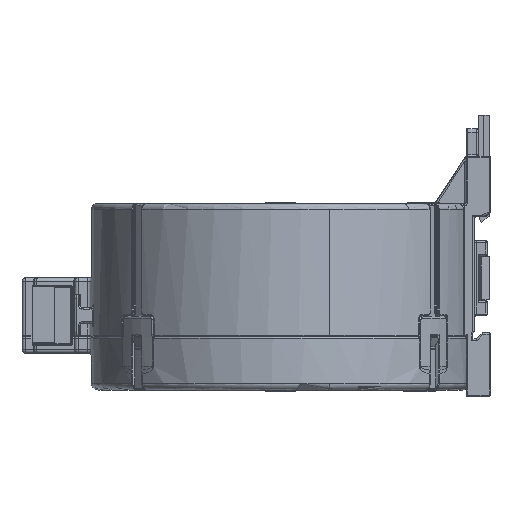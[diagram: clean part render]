
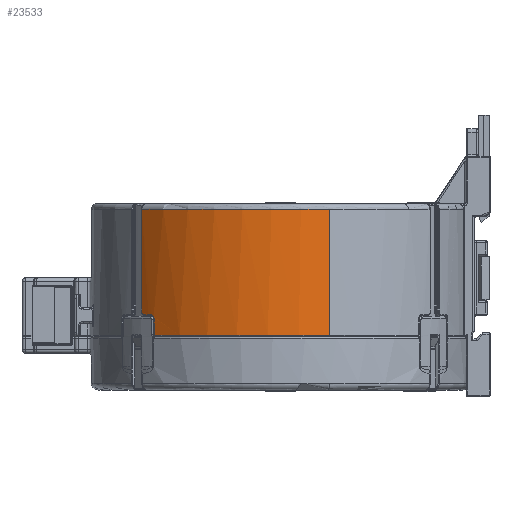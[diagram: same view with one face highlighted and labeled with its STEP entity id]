
A CAD part, left-side view. The second image highlights one B-rep face of the part: STEP entity #23533.
In plain terms, the highlighted cylindrical face has radius 55.4 mm (diameter 110.8 mm), a partial arc.
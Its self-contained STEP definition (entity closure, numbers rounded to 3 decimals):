
#928 = CARTESIAN_POINT ( 'NONE',  ( 0., 0., -32.4 ) ) ;
#1231 = CARTESIAN_POINT ( 'NONE',  ( -37.668, 40.624, 0. ) ) ;
#1321 = LINE ( 'NONE', #137742, #167018 ) ;
#3817 = CARTESIAN_POINT ( 'NONE',  ( -41.374, 36.842, -38.5 ) ) ;
#4107 = VERTEX_POINT ( 'NONE', #115714 ) ;
#6881 = CARTESIAN_POINT ( 'NONE',  ( -41.374, 36.842, -38.5 ) ) ;
#7978 = CARTESIAN_POINT ( 'NONE',  ( -41.205, 37.031, -38.25 ) ) ;
#11191 = VECTOR ( 'NONE', #150433, 1000. ) ;
#12550 = ORIENTED_EDGE ( 'NONE', *, *, #191863, .T. ) ;
#12952 = B_SPLINE_CURVE_WITH_KNOTS ( 'NONE', 3,
 ( #105961, #173188, #85165, #139034, #88370, #121347, #152343, #205084, #187486, #36631, #103782, #154492 ),
 .UNSPECIFIED., .F., .F.,
 ( 4, 2, 2, 2, 2, 4 ),
 ( 0., 0., 0.001, 0.001, 0.001, 0.002 ),
 .UNSPECIFIED. ) ;
#14225 = CARTESIAN_POINT ( 'NONE',  ( -38.146, 40.175, -32.4 ) ) ;
#15315 = CARTESIAN_POINT ( 'NONE',  ( -38.075, 40.242, -32.381 ) ) ;
#16401 = CARTESIAN_POINT ( 'NONE',  ( -37.668, 40.624, -31.65 ) ) ;
#20300 = ORIENTED_EDGE ( 'NONE', *, *, #47849, .T. ) ;
#20543 = DIRECTION ( 'NONE',  ( 0., 0., 1. ) ) ;
#23533 = ADVANCED_FACE ( 'NONE', ( #150533 ), #70115, .T. ) ;
#30916 = ORIENTED_EDGE ( 'NONE', *, *, #215460, .T. ) ;
#32602 = CARTESIAN_POINT ( 'NONE',  ( -40.349, 37.962, -32.4 ) ) ;
#34241 = VERTEX_POINT ( 'NONE', #172159 ) ;
#35858 = VERTEX_POINT ( 'NONE', #32602 ) ;
#36631 = CARTESIAN_POINT ( 'NONE',  ( -41.182, 37.056, -33.319 ) ) ;
#38042 = DIRECTION ( 'NONE',  ( 0.966, 0.259, 0. ) ) ;
#39170 = DIRECTION ( 'NONE',  ( -0.966, -0.259, 0. ) ) ;
#40954 = CARTESIAN_POINT ( 'NONE',  ( -41.205, 37.031, -38.316 ) ) ;
#41622 = EDGE_CURVE ( 'NONE', #185181, #72146, #210656, .T. ) ;
#46523 = VERTEX_POINT ( 'NONE', #97405 ) ;
#47849 = EDGE_CURVE ( 'NONE', #46523, #215747, #1321, .T. ) ;
#49073 = ORIENTED_EDGE ( 'NONE', *, *, #106440, .T. ) ;
#50882 = DIRECTION ( 'NONE',  ( 0., 0., -1. ) ) ;
#53587 = CARTESIAN_POINT ( 'NONE',  ( 0., 0., -38.5 ) ) ;
#53749 = DIRECTION ( 'NONE',  ( 0., 0., 1. ) ) ;
#58893 = CARTESIAN_POINT ( 'NONE',  ( 0., 0., -1.5 ) ) ;
#59661 = CARTESIAN_POINT ( 'NONE',  ( -41.33, 36.892, -38.5 ) ) ;
#65093 = CARTESIAN_POINT ( 'NONE',  ( -53.512, -14.339, -1.5 ) ) ;
#69855 = CARTESIAN_POINT ( 'NONE',  ( -41.205, 37.031, -38.25 ) ) ;
#70115 = CYLINDRICAL_SURFACE ( 'NONE', #181920, 55.4 ) ;
#72146 = VERTEX_POINT ( 'NONE', #159466 ) ;
#73193 = AXIS2_PLACEMENT_3D ( 'NONE', #53587, #20543, #38042 ) ;
#75260 = EDGE_LOOP ( 'NONE', ( #209828, #173807, #12550, #96594, #30916, #145531, #20300, #147597, #49073 ) ) ;
#82451 = CARTESIAN_POINT ( 'NONE',  ( -38.218, 40.107, -32.4 ) ) ;
#85165 = CARTESIAN_POINT ( 'NONE',  ( -40.574, 37.722, -32.432 ) ) ;
#88370 = CARTESIAN_POINT ( 'NONE',  ( -40.778, 37.501, -32.563 ) ) ;
#91163 = CIRCLE ( 'NONE', #133367, 55.4 ) ;
#96594 = ORIENTED_EDGE ( 'NONE', *, *, #130198, .T. ) ;
#97405 = CARTESIAN_POINT ( 'NONE',  ( -41.205, 37.031, -33.65 ) ) ;
#98122 = DIRECTION ( 'NONE',  ( 0., 0., -1. ) ) ;
#101013 = DIRECTION ( 'NONE',  ( -0.966, -0.259, 0. ) ) ;
#103782 = CARTESIAN_POINT ( 'NONE',  ( -41.205, 37.031, -33.484 ) ) ;
#105961 = CARTESIAN_POINT ( 'NONE',  ( -40.349, 37.962, -32.4 ) ) ;
#106440 = EDGE_CURVE ( 'NONE', #135216, #34241, #168129, .T. ) ;
#109315 = EDGE_CURVE ( 'NONE', #185181, #34241, #184475, .T. ) ;
#109474 = DIRECTION ( 'NONE',  ( 0.966, 0.259, 0. ) ) ;
#115714 = CARTESIAN_POINT ( 'NONE',  ( -38.218, 40.107, -32.4 ) ) ;
#121347 = CARTESIAN_POINT ( 'NONE',  ( -40.871, 37.399, -32.653 ) ) ;
#123399 = EDGE_CURVE ( 'NONE', #35858, #46523, #12952, .T. ) ;
#125929 = DIRECTION ( 'NONE',  ( 0., 0., -1. ) ) ;
#130198 = EDGE_CURVE ( 'NONE', #131599, #4107, #187126, .T. ) ;
#131599 = VERTEX_POINT ( 'NONE', #159641 ) ;
#133245 = LINE ( 'NONE', #1231, #159283 ) ;
#133367 = AXIS2_PLACEMENT_3D ( 'NONE', #928, #53749, #101013 ) ;
#135216 = VERTEX_POINT ( 'NONE', #3817 ) ;
#137742 = CARTESIAN_POINT ( 'NONE',  ( -41.205, 37.031, 0. ) ) ;
#139034 = CARTESIAN_POINT ( 'NONE',  ( -40.729, 37.554, -32.525 ) ) ;
#140965 = EDGE_CURVE ( 'NONE', #215747, #135216, #175292, .T. ) ;
#145531 = ORIENTED_EDGE ( 'NONE', *, *, #123399, .T. ) ;
#146061 = CARTESIAN_POINT ( 'NONE',  ( -53.512, -14.339, 0. ) ) ;
#147455 = CARTESIAN_POINT ( 'NONE',  ( -37.942, 40.368, -32.306 ) ) ;
#147597 = ORIENTED_EDGE ( 'NONE', *, *, #140965, .T. ) ;
#150433 = DIRECTION ( 'NONE',  ( 0., 0., -1. ) ) ;
#150533 = FACE_OUTER_BOUND ( 'NONE', #75260, .T. ) ;
#152343 = CARTESIAN_POINT ( 'NONE',  ( -40.915, 37.351, -32.706 ) ) ;
#154492 = CARTESIAN_POINT ( 'NONE',  ( -41.205, 37.031, -33.65 ) ) ;
#159283 = VECTOR ( 'NONE', #98122, 1000. ) ;
#159466 = CARTESIAN_POINT ( 'NONE',  ( -37.668, 40.624, -1.5 ) ) ;
#159641 = CARTESIAN_POINT ( 'NONE',  ( -37.668, 40.624, -31.65 ) ) ;
#167018 = VECTOR ( 'NONE', #50882, 1000. ) ;
#167202 = CARTESIAN_POINT ( 'NONE',  ( -37.881, 40.425, -32.25 ) ) ;
#168129 = CIRCLE ( 'NONE', #73193, 55.4 ) ;
#172159 = CARTESIAN_POINT ( 'NONE',  ( -53.512, -14.339, -38.5 ) ) ;
#173188 = CARTESIAN_POINT ( 'NONE',  ( -40.463, 37.841, -32.4 ) ) ;
#173807 = ORIENTED_EDGE ( 'NONE', *, *, #41622, .T. ) ;
#175292 = B_SPLINE_CURVE_WITH_KNOTS ( 'NONE', 3,
 ( #7978, #40954, #210420, #209326, #59661, #6881 ),
 .UNSPECIFIED., .F., .F.,
 ( 4, 2, 4 ),
 ( 0., 0., 0. ),
 .UNSPECIFIED. ) ;
#181920 = AXIS2_PLACEMENT_3D ( 'NONE', #217602, #193300, #39170 ) ;
#182591 = CARTESIAN_POINT ( 'NONE',  ( -37.729, 40.568, -32.043 ) ) ;
#184475 = LINE ( 'NONE', #146061, #11191 ) ;
#185181 = VERTEX_POINT ( 'NONE', #65093 ) ;
#187126 = B_SPLINE_CURVE_WITH_KNOTS ( 'NONE', 3,
 ( #16401, #201287, #182591, #167202, #147455, #15315, #14225, #82451 ),
 .UNSPECIFIED., .F., .F.,
 ( 4, 2, 2, 4 ),
 ( 0., 0.001, 0.001, 0.001 ),
 .UNSPECIFIED. ) ;
#187486 = CARTESIAN_POINT ( 'NONE',  ( -41.097, 37.151, -33.018 ) ) ;
#189607 = AXIS2_PLACEMENT_3D ( 'NONE', #58893, #125929, #109474 ) ;
#191863 = EDGE_CURVE ( 'NONE', #72146, #131599, #133245, .T. ) ;
#193300 = DIRECTION ( 'NONE',  ( 0., 0., -1. ) ) ;
#201287 = CARTESIAN_POINT ( 'NONE',  ( -37.668, 40.624, -31.849 ) ) ;
#205084 = CARTESIAN_POINT ( 'NONE',  ( -41.033, 37.222, -32.878 ) ) ;
#209326 = CARTESIAN_POINT ( 'NONE',  ( -41.286, 36.94, -38.473 ) ) ;
#209828 = ORIENTED_EDGE ( 'NONE', *, *, #109315, .F. ) ;
#210420 = CARTESIAN_POINT ( 'NONE',  ( -41.224, 37.01, -38.381 ) ) ;
#210656 = CIRCLE ( 'NONE', #189607, 55.4 ) ;
#215460 = EDGE_CURVE ( 'NONE', #4107, #35858, #91163, .T. ) ;
#215747 = VERTEX_POINT ( 'NONE', #69855 ) ;
#217602 = CARTESIAN_POINT ( 'NONE',  ( 0., 0., 0. ) ) ;
